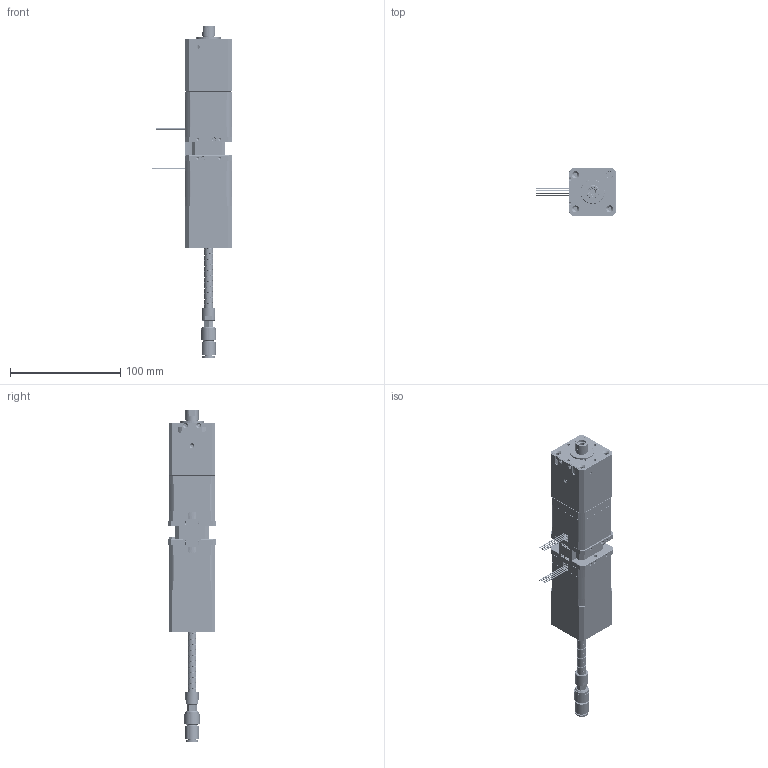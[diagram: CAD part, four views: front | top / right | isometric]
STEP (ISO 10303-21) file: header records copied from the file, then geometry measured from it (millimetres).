
FILE_DESCRIPTION((''),'2;1');
FILE_NAME('ZRCMM8-P10-S50-MH42E_ASM_ASM_ASM','2024-03-20T',('12562'),(''),'PRO/ENGINEER BY PARAMETRIC TECHNOLOGY CORPORATION, 2014320','PRO/ENGINEER BY PARAMETRIC TECHNOLOGY CORPORATION, 2014320','');
FILE_SCHEMA(('AUTOMOTIVE_DESIGN { 1 0 10303 214 1 1 1 1 }'));
Products named in the file (40): PRT0001; PRT0002; PRT0003; PRT0004; PRT0005; PRT0006; PRT0007; PRT0008; PRT0009; PRT0010; PRT0011; PRT0012; PRT0013; PRT0014; PRT0015; PRT0016; PRT0017; PRT0018; PRT0019; PRT0020; 42_____ASM_1_ASM_ASM_ASM; PRT0021; ASM0009_ASM_1_ASM_ASM_ASM; ASM0008_ASM_4_ASM_ASM_ASM; 42HS248L254-10DE-01_ASM_7_ASM_A_ASM; PRT0022; PRT0023; PRT0024; PRT0025; PRT0026; PRT0027; PRT0028; PRT0029; PRT0030; PRT0031; PRT0032; PRT0033; ASM0001_ASM; ZRCMM8-P10-S50-MH42_ASM_ASM_ASM; ZRCMM8-P10-S50-MH42E_ASM_ASM_ASM
Assembly tree (46 placements, depth 8):
  ZRCMM8-P10-S50-MH42E_ASM_ASM_ASM
    ZRCMM8-P10-S50-MH42_ASM_ASM_ASM
      ASM0001_ASM
        PRT0001
        42HS248L254-10DE-01_ASM_7_ASM_A_ASM  x2
          ASM0008_ASM_4_ASM_ASM_ASM
            PRT0002
            PRT0003  x4
            PRT0004
            PRT0005
            ASM0009_ASM_1_ASM_ASM_ASM
              PRT0006
              PRT0007
              PRT0008
              PRT0009
              42_____ASM_1_ASM_ASM_ASM  x2
                PRT0010
                PRT0011
                PRT0012
                PRT0013
                PRT0014
                PRT0015
                PRT0016
                PRT0017
                PRT0018
                PRT0019
                PRT0020
              PRT0021
        PRT0022
        PRT0023
        PRT0024
        PRT0025
        PRT0026
        PRT0027
        PRT0028
        PRT0029
        PRT0030
        PRT0031
        PRT0032  x2
        PRT0033  x2
Bounding box: 72.15 x 44 x 301.5 mm (x, y, z)
Volume: 254631.2 mm3; surface area: 143060.2 mm2
Topology: 83 solids, 115 shells, 4240 faces, 12139 edges, 8150 vertices
Faces by surface type: cylinder 2241, plane 1824, cone 119, bspline 32, sphere 16, torus 8
Entity records: 87281 total; most frequent: CARTESIAN_POINT 29860, ORIENTED_EDGE 9220, DIRECTION 9096, EDGE_CURVE 4669, AXIS2_PLACEMENT_3D 3266, VERTEX_POINT 3167, VECTOR 2564, LINE 2564
